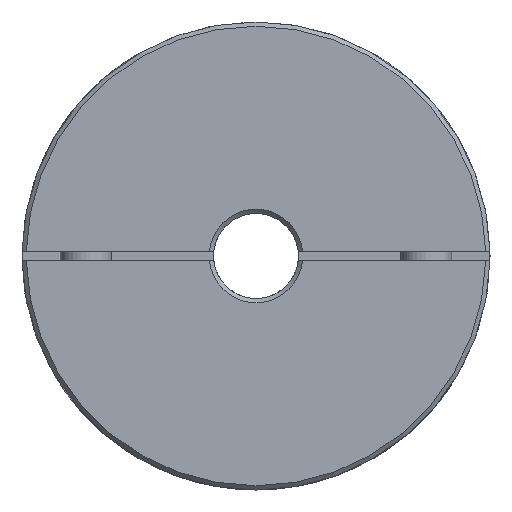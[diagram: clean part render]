
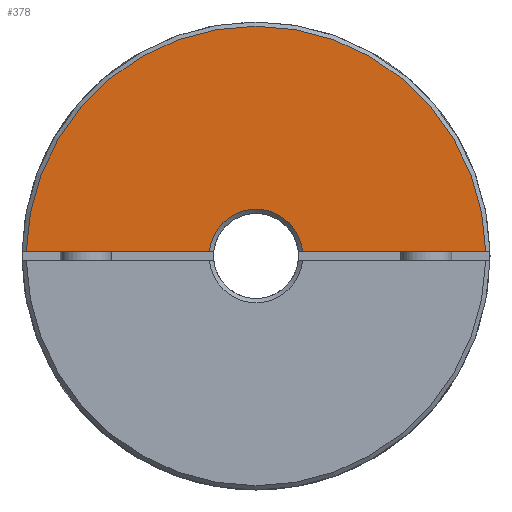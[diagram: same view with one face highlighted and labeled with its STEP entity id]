
A CAD part, left-side view. The second image highlights one B-rep face of the part: STEP entity #378.
In plain terms, the highlighted planar face has unit normal (-1, 0, 0) as drawn and (1, 0, 0) by its records, which use the part's own axes.
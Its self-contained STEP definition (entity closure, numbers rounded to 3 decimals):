
#378 = ADVANCED_FACE( '', ( #769 ), #770, .T. );
#769 = FACE_OUTER_BOUND( '', #1262, .T. );
#770 = PLANE( '', #1263 );
#1262 = EDGE_LOOP( '', ( #1893, #1894, #1895, #1896 ) );
#1263 = AXIS2_PLACEMENT_3D( '', #1897, #1898, #1899 );
#1893 = ORIENTED_EDGE( '', *, *, #2620, .F. );
#1894 = ORIENTED_EDGE( '', *, *, #2505, .T. );
#1895 = ORIENTED_EDGE( '', *, *, #2461, .F. );
#1896 = ORIENTED_EDGE( '', *, *, #2577, .T. );
#1897 = CARTESIAN_POINT( '', ( 31.5, 0., 55. ) );
#1898 = DIRECTION( '', ( 1., 0., 0. ) );
#1899 = DIRECTION( '', ( 0., 0., -1. ) );
#2461 = EDGE_CURVE( '', #2786, #2787, #2788, .T. );
#2505 = EDGE_CURVE( '', #2864, #2787, #2865, .T. );
#2577 = EDGE_CURVE( '', #2786, #2973, #2975, .F. );
#2620 = EDGE_CURVE( '', #2864, #2973, #3038, .T. );
#2786 = VERTEX_POINT( '', #3251 );
#2787 = VERTEX_POINT( '', #3252 );
#2788 = LINE( '', #3253, #3254 );
#2864 = VERTEX_POINT( '', #3505 );
#2865 = CIRCLE( '', #3506, 54. );
#2973 = VERTEX_POINT( '', #3641 );
#2975 = CIRCLE( '', #3646, 11. );
#3038 = LINE( '', #3723, #3724 );
#3251 = CARTESIAN_POINT( '', ( 31.5, -10.954, 1. ) );
#3252 = CARTESIAN_POINT( '', ( 31.5, -53.991, 1. ) );
#3253 = CARTESIAN_POINT( '', ( 31.5, 0., 1. ) );
#3254 = VECTOR( '', #4529, 1000. );
#3505 = CARTESIAN_POINT( '', ( 31.5, 53.991, 1. ) );
#3506 = AXIS2_PLACEMENT_3D( '', #4593, #4594, #4595 );
#3641 = CARTESIAN_POINT( '', ( 31.5, 10.954, 1. ) );
#3646 = AXIS2_PLACEMENT_3D( '', #4701, #4702, #4703 );
#3723 = CARTESIAN_POINT( '', ( 31.5, 0., 1. ) );
#3724 = VECTOR( '', #4760, 1000. );
#4529 = DIRECTION( '', ( 0., -1., 0. ) );
#4593 = CARTESIAN_POINT( '', ( 31.5, 0., 0. ) );
#4594 = DIRECTION( '', ( 1., 0., 0. ) );
#4595 = DIRECTION( '', ( 0., 0., -1. ) );
#4701 = CARTESIAN_POINT( '', ( 31.5, 0., 0. ) );
#4702 = DIRECTION( '', ( 1., 0., 0. ) );
#4703 = DIRECTION( '', ( 0., 0., -1. ) );
#4760 = DIRECTION( '', ( 0., -1., 0. ) );
